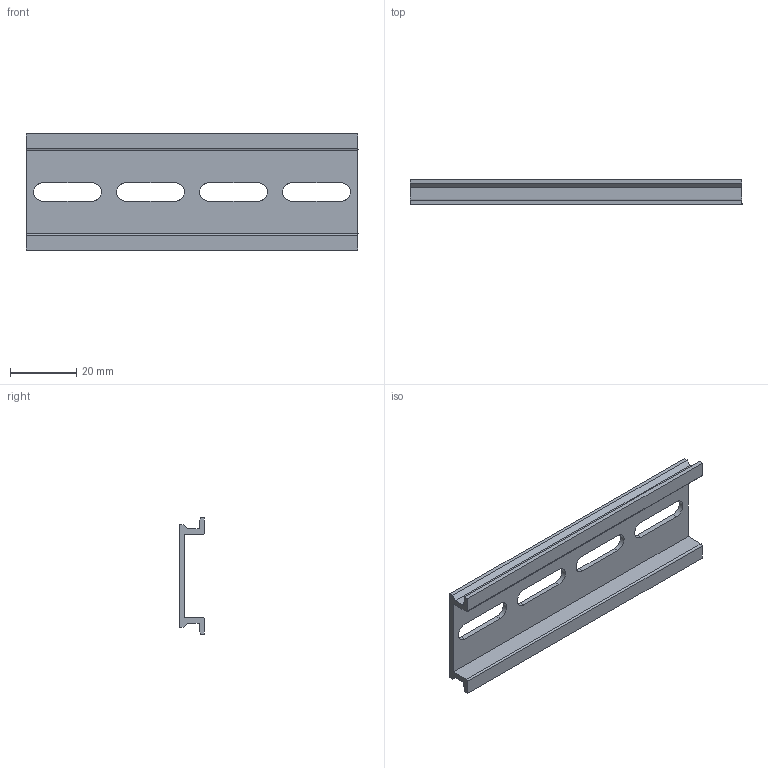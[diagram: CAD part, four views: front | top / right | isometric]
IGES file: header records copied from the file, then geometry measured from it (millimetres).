
Start section: ------------------------------------------------------------------------
Global section: file name: D:\ICADMX\tmp\trans3d_spg\CVICAD02.21224.DIN-RAIL100_7739.igs; native system: spGate; preprocessor: ver12.6.6; author: Unknown; organization: Unknown; date: 200901.142009; units: millimetre
Bounding box: 100 x 7.5 x 35 mm (x, y, z)
Volume: 7059.8 mm3; surface area: 9557.2 mm2
Topology: 1 solids, 1 shells, 36 faces, 102 edges, 68 vertices
Faces by surface type: bspline 36
